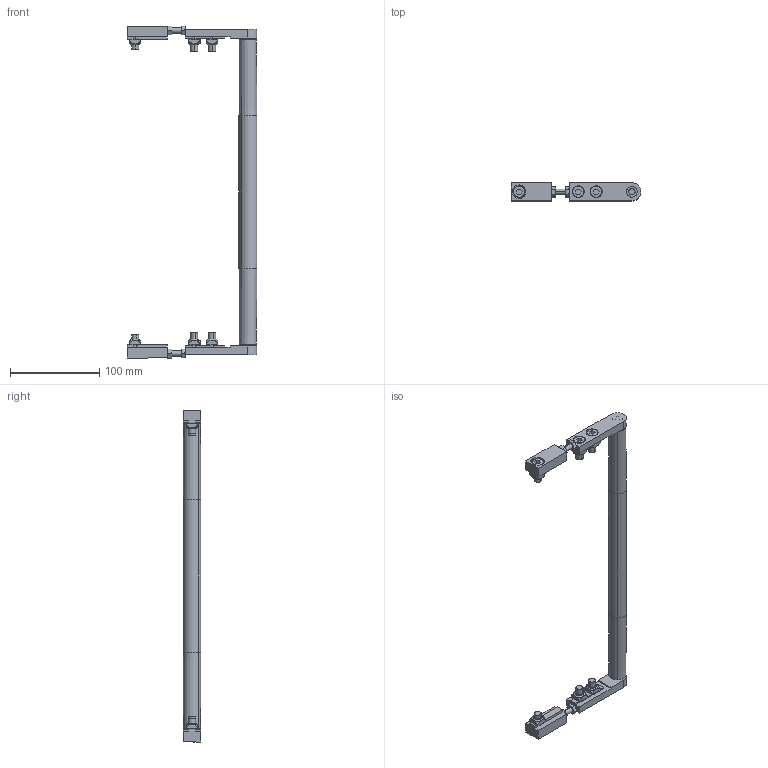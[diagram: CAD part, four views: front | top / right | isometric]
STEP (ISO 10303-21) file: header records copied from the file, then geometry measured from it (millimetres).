
FILE_DESCRIPTION (( 'STEP AP214' ), '1' );
FILE_NAME ('084.020.KI.320.STEP', '2021-02-05T13:57:03', ( '' ), ( '' ), 'SwSTEP 2.0', 'SolidWorks 2018', '' );
FILE_SCHEMA (( 'AUTOMOTIVE_DESIGN' ));
Length unit declared in the file: millimetre
Products named in the file (10): 084.800.002; 084.301.000 VITI ALUSIC_084.301.003; 084.800.012; 084.802.008; circlip for shafts normal_din_PreviewCfg; 084.020.KI.320; 084.302.000 DADI ALUSIC 13x13-1_084.302.004; 084.800.008; 084.800.007; 084.800.040
Assembly tree (27 placements, depth 2):
  084.020.KI.320
    084.802.008  x2
    084.301.000 VITI ALUSIC_084.301.003  x6
    084.302.000 DADI ALUSIC 13x13-1_084.302.004  x6
    084.800.040
    084.800.012  x4
    084.800.008  x2
    084.800.002  x2
    084.800.007  x2
    circlip for shafts normal_din_PreviewCfg  x2
Bounding box: 145 x 20 x 371 mm (x, y, z)
Volume: 117499.5 mm3; surface area: 78803.1 mm2
Topology: 31 solids, 31 shells, 654 faces, 1534 edges, 978 vertices
Faces by surface type: plane 250, cylinder 212, torus 112, cone 56, bspline 24
Entity records: 7297 total; most frequent: CARTESIAN_POINT 1531, DIRECTION 1185, ORIENTED_EDGE 1018, EDGE_CURVE 509, AXIS2_PLACEMENT_3D 471, VERTEX_POINT 327, EDGE_LOOP 250, VECTOR 243
